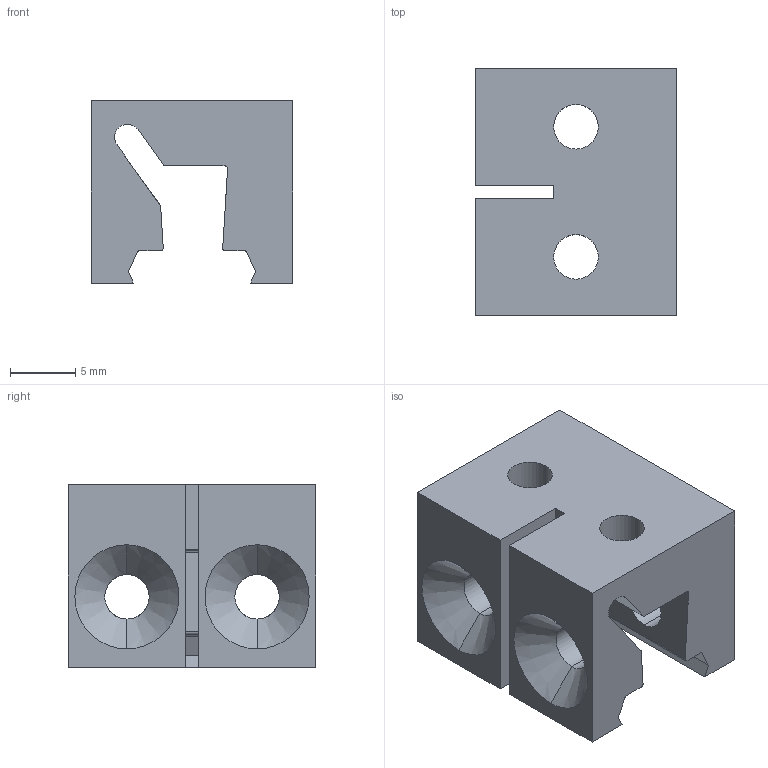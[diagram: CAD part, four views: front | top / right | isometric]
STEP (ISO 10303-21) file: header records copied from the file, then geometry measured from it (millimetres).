
FILE_DESCRIPTION((''),'2;1');
FILE_NAME('15300698_MBD-S94.stp','2011-04-13T07:50:09',(''),(''),'Mechanical Desktop 2009','Mechanical Desktop 2009',', , ');
FILE_SCHEMA(('CONFIG_CONTROL_DESIGN'));
Length unit declared in the file: millimetre
Products named in the file (2): Product; *U20
Assembly tree (1 placements, depth 2):
  Product
    *U20
Bounding box: 15.5 x 19 x 14 mm (x, y, z)
Volume: 2455.4 mm3; surface area: 2228.9 mm2
Topology: 1 solids, 1 shells, 60 faces, 176 edges, 116 vertices
Faces by surface type: plane 29, cylinder 27, cone 4
Entity records: 2151 total; most frequent: CARTESIAN_POINT 374, DIRECTION 354, ORIENTED_EDGE 352, EDGE_CURVE 176, AXIS2_PLACEMENT_3D 120, VERTEX_POINT 116, VECTOR 114, LINE 114
